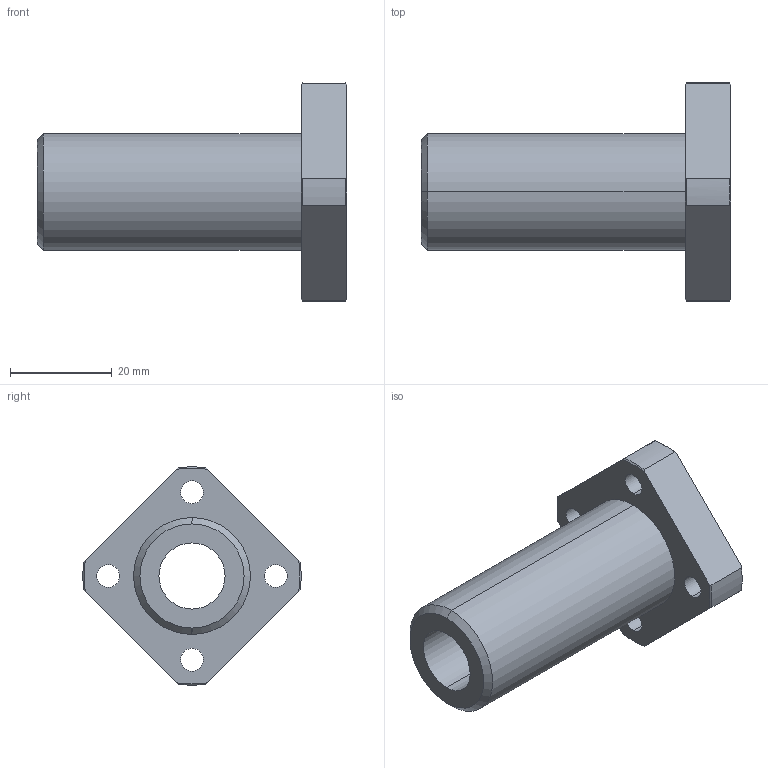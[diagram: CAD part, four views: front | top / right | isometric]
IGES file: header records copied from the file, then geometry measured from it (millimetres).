
Start section: 3D InterOp IGES (Version 21 0 1), Spatial Corp. Copyright (c) 1999-2007.
Global section: file name: DFPJ13.igs; native system: Spatial Corp.; preprocessor: 3D InterOp GENERIC/IGES 3.0; author: Noname; organization: Noname; date: 20220324.140520; units: millimetre
Bounding box: 61 x 42.96 x 43 mm (x, y, z)
Surface area: 9859.1 mm2 (no closed solid volume)
Topology: 0 solids, 0 shells, 48 faces, 240 edges, 240 vertices
Faces by surface type: revolution 37, extrusion 11
